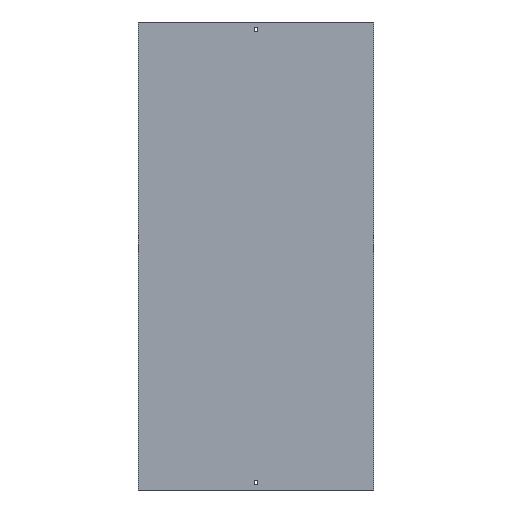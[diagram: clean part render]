
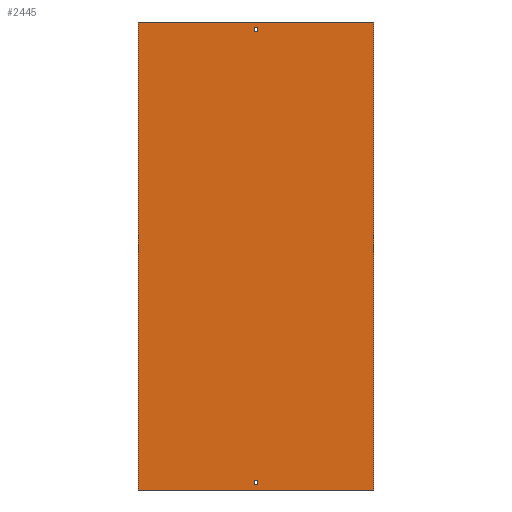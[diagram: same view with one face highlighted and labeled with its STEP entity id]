
A CAD part, front view. The second image highlights one B-rep face of the part: STEP entity #2445.
In plain terms, the highlighted planar face has unit normal (0, -1, 0).
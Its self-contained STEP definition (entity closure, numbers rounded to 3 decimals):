
#54 = EDGE_CURVE ( 'NONE', #1210, #2416, #1747, .T. ) ;
#68 = VECTOR ( 'NONE', #2181, 1000. ) ;
#104 = CARTESIAN_POINT ( 'NONE',  ( 3.25, 0., 488. ) ) ;
#128 = EDGE_CURVE ( 'NONE', #1688, #1236, #1365, .T. ) ;
#160 = VECTOR ( 'NONE', #2032, 1000. ) ;
#197 = VERTEX_POINT ( 'NONE', #1843 ) ;
#203 = VERTEX_POINT ( 'NONE', #2543 ) ;
#214 = ORIENTED_EDGE ( 'NONE', *, *, #2519, .T. ) ;
#301 = ORIENTED_EDGE ( 'NONE', *, *, #915, .F. ) ;
#334 = CARTESIAN_POINT ( 'NONE',  ( -3.25, 0., 479. ) ) ;
#337 = CARTESIAN_POINT ( 'NONE',  ( -252., 0., -500. ) ) ;
#358 = LINE ( 'NONE', #1595, #1191 ) ;
#387 = LINE ( 'NONE', #1660, #2750 ) ;
#434 = DIRECTION ( 'NONE',  ( 0., 1., 0. ) ) ;
#437 = EDGE_CURVE ( 'NONE', #899, #2744, #867, .T. ) ;
#458 = EDGE_CURVE ( 'NONE', #1179, #2431, #1519, .T. ) ;
#487 = EDGE_CURVE ( 'NONE', #2356, #197, #2062, .T. ) ;
#592 = EDGE_CURVE ( 'NONE', #197, #899, #387, .T. ) ;
#633 = FACE_BOUND ( 'NONE', #1109, .T. ) ;
#650 = ORIENTED_EDGE ( 'NONE', *, *, #1939, .F. ) ;
#690 = ORIENTED_EDGE ( 'NONE', *, *, #437, .T. ) ;
#744 = VECTOR ( 'NONE', #981, 1000. ) ;
#760 = CARTESIAN_POINT ( 'NONE',  ( 3.25, 0., -488. ) ) ;
#822 = DIRECTION ( 'NONE',  ( 0., 0., 1. ) ) ;
#856 = PLANE ( 'NONE',  #1155 ) ;
#867 = LINE ( 'NONE', #2378, #68 ) ;
#879 = CARTESIAN_POINT ( 'NONE',  ( -252., 0., -500. ) ) ;
#897 = EDGE_CURVE ( 'NONE', #1210, #1688, #957, .T. ) ;
#899 = VERTEX_POINT ( 'NONE', #2681 ) ;
#915 = EDGE_CURVE ( 'NONE', #203, #1179, #358, .T. ) ;
#957 = LINE ( 'NONE', #1194, #2479 ) ;
#977 = VECTOR ( 'NONE', #1106, 1000. ) ;
#981 = DIRECTION ( 'NONE',  ( 0., 0., -1. ) ) ;
#1077 = CARTESIAN_POINT ( 'NONE',  ( -3.25, 0., 488. ) ) ;
#1105 = ORIENTED_EDGE ( 'NONE', *, *, #458, .F. ) ;
#1106 = DIRECTION ( 'NONE',  ( -1., 0., 0. ) ) ;
#1109 = EDGE_LOOP ( 'NONE', ( #1105, #301, #2177, #650 ) ) ;
#1117 = ORIENTED_EDGE ( 'NONE', *, *, #54, .T. ) ;
#1154 = EDGE_LOOP ( 'NONE', ( #2264, #690, #1814, #1891 ) ) ;
#1155 = AXIS2_PLACEMENT_3D ( 'NONE', #2581, #434, #1481 ) ;
#1163 = DIRECTION ( 'NONE',  ( 0., 0., -1. ) ) ;
#1168 = CARTESIAN_POINT ( 'NONE',  ( 3.25, 0., 488. ) ) ;
#1179 = VERTEX_POINT ( 'NONE', #334 ) ;
#1186 = CARTESIAN_POINT ( 'NONE',  ( -252., 0., 500. ) ) ;
#1191 = VECTOR ( 'NONE', #2487, 1000. ) ;
#1194 = CARTESIAN_POINT ( 'NONE',  ( -252., 0., 500. ) ) ;
#1210 = VERTEX_POINT ( 'NONE', #1186 ) ;
#1236 = VERTEX_POINT ( 'NONE', #2662 ) ;
#1285 = DIRECTION ( 'NONE',  ( 1., 0., 0. ) ) ;
#1316 = VECTOR ( 'NONE', #1285, 1000. ) ;
#1327 = VECTOR ( 'NONE', #1163, 1000. ) ;
#1354 = LINE ( 'NONE', #2628, #1327 ) ;
#1365 = LINE ( 'NONE', #1394, #744 ) ;
#1385 = DIRECTION ( 'NONE',  ( 1., 0., 0. ) ) ;
#1394 = CARTESIAN_POINT ( 'NONE',  ( 252., 0., 500. ) ) ;
#1447 = CARTESIAN_POINT ( 'NONE',  ( 252., 0., 500. ) ) ;
#1462 = VECTOR ( 'NONE', #1795, 1000. ) ;
#1481 = DIRECTION ( 'NONE',  ( -1., 0., 0. ) ) ;
#1519 = LINE ( 'NONE', #2335, #1316 ) ;
#1533 = CARTESIAN_POINT ( 'NONE',  ( -252., 0., 500. ) ) ;
#1535 = LINE ( 'NONE', #1077, #977 ) ;
#1595 = CARTESIAN_POINT ( 'NONE',  ( -3.25, 0., 488. ) ) ;
#1632 = VECTOR ( 'NONE', #2596, 1000. ) ;
#1639 = EDGE_LOOP ( 'NONE', ( #214, #2155, #2557, #1117 ) ) ;
#1660 = CARTESIAN_POINT ( 'NONE',  ( -3.25, 0., -488. ) ) ;
#1688 = VERTEX_POINT ( 'NONE', #1447 ) ;
#1732 = DIRECTION ( 'NONE',  ( 1., 0., 0. ) ) ;
#1747 = LINE ( 'NONE', #1533, #1632 ) ;
#1795 = DIRECTION ( 'NONE',  ( 0., 0., 1. ) ) ;
#1808 = CARTESIAN_POINT ( 'NONE',  ( 3.25, 0., -479. ) ) ;
#1814 = ORIENTED_EDGE ( 'NONE', *, *, #2327, .T. ) ;
#1843 = CARTESIAN_POINT ( 'NONE',  ( -3.25, 0., -488. ) ) ;
#1844 = FACE_OUTER_BOUND ( 'NONE', #1639, .T. ) ;
#1849 = LINE ( 'NONE', #104, #1462 ) ;
#1891 = ORIENTED_EDGE ( 'NONE', *, *, #487, .T. ) ;
#1939 = EDGE_CURVE ( 'NONE', #2431, #2055, #1849, .T. ) ;
#2032 = DIRECTION ( 'NONE',  ( -1., 0., 0. ) ) ;
#2055 = VERTEX_POINT ( 'NONE', #1168 ) ;
#2062 = LINE ( 'NONE', #2493, #160 ) ;
#2130 = CARTESIAN_POINT ( 'NONE',  ( 3.25, 0., 479. ) ) ;
#2155 = ORIENTED_EDGE ( 'NONE', *, *, #128, .F. ) ;
#2177 = ORIENTED_EDGE ( 'NONE', *, *, #2285, .F. ) ;
#2181 = DIRECTION ( 'NONE',  ( 1., 0., 0. ) ) ;
#2264 = ORIENTED_EDGE ( 'NONE', *, *, #592, .T. ) ;
#2285 = EDGE_CURVE ( 'NONE', #2055, #203, #1535, .T. ) ;
#2327 = EDGE_CURVE ( 'NONE', #2744, #2356, #1354, .T. ) ;
#2334 = FACE_BOUND ( 'NONE', #1154, .T. ) ;
#2335 = CARTESIAN_POINT ( 'NONE',  ( -3.25, 0., 479. ) ) ;
#2350 = VECTOR ( 'NONE', #1732, 1000. ) ;
#2356 = VERTEX_POINT ( 'NONE', #760 ) ;
#2364 = LINE ( 'NONE', #879, #2350 ) ;
#2378 = CARTESIAN_POINT ( 'NONE',  ( -3.25, 0., -479. ) ) ;
#2416 = VERTEX_POINT ( 'NONE', #337 ) ;
#2431 = VERTEX_POINT ( 'NONE', #2130 ) ;
#2445 = ADVANCED_FACE ( 'NONE', ( #1844, #633, #2334 ), #856, .F. ) ;
#2479 = VECTOR ( 'NONE', #1385, 1000. ) ;
#2487 = DIRECTION ( 'NONE',  ( 0., 0., -1. ) ) ;
#2493 = CARTESIAN_POINT ( 'NONE',  ( -3.25, 0., -488. ) ) ;
#2519 = EDGE_CURVE ( 'NONE', #2416, #1236, #2364, .T. ) ;
#2543 = CARTESIAN_POINT ( 'NONE',  ( -3.25, 0., 488. ) ) ;
#2557 = ORIENTED_EDGE ( 'NONE', *, *, #897, .F. ) ;
#2581 = CARTESIAN_POINT ( 'NONE',  ( -252., 0., 500. ) ) ;
#2596 = DIRECTION ( 'NONE',  ( 0., 0., -1. ) ) ;
#2628 = CARTESIAN_POINT ( 'NONE',  ( 3.25, 0., -488. ) ) ;
#2662 = CARTESIAN_POINT ( 'NONE',  ( 252., 0., -500. ) ) ;
#2681 = CARTESIAN_POINT ( 'NONE',  ( -3.25, 0., -479. ) ) ;
#2744 = VERTEX_POINT ( 'NONE', #1808 ) ;
#2750 = VECTOR ( 'NONE', #822, 1000. ) ;
